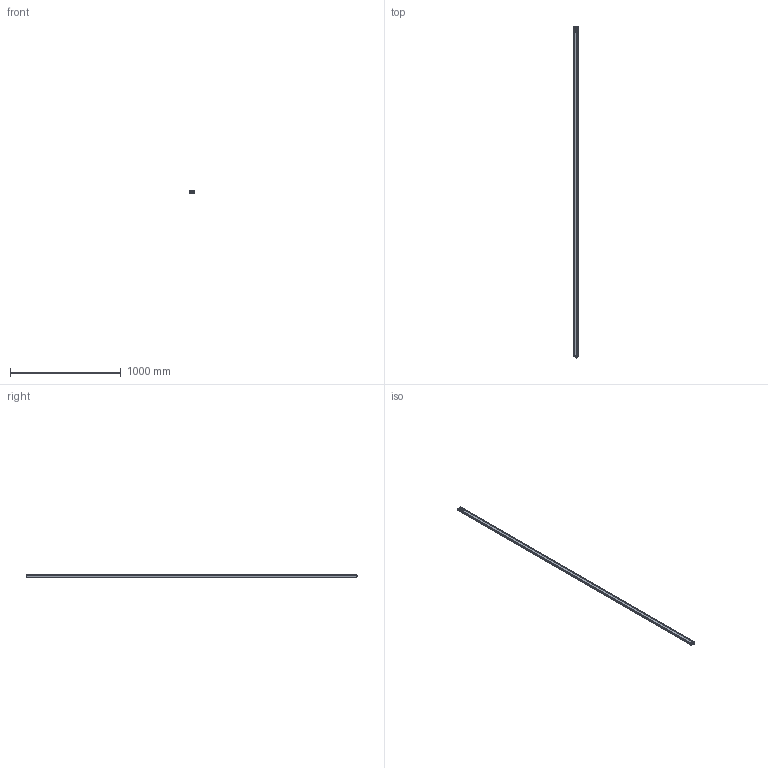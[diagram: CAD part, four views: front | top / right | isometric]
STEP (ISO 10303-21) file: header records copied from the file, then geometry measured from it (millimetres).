
FILE_DESCRIPTION(/* description */ (''),/* implementation_level */ '2;1');
FILE_NAME(/* name */ 'C:\Users\andre\SynologyDrive\Optoscan\Libreria Componenti\00 - Barriere\Barriera sorgente\Argo_2960_RX.stp',/* time_stamp */ '2021-04-23T12:51:15+02:00',/* author */ ('andre'),/* organization */ (''),/* preprocessor_version */ 'ST-DEVELOPER v18',/* originating_system */ 'Autodesk Inventor 2020',/* authorisation */ '');
FILE_SCHEMA (('AUTOMOTIVE_DESIGN { 1 0 10303 214 3 1 1 }'));
Length unit declared in the file: millimetre
Products named in the file (1): Argo_2960_RX
Bounding box: 40.5 x 2993.3 x 20.75 mm (x, y, z)
Volume: 587102.3 mm3; surface area: 782091 mm2
Topology: 1 solids, 1 shells, 676 faces, 1854 edges, 1185 vertices
Faces by surface type: plane 315, cylinder 191, bspline 94, torus 62, cone 8, sphere 6
Full cylindrical faces by diameter (mm): 1 x4, 2.5 x4, 3 x4, 3.5 x4, 5.5 x4, 8 x1, 10.5 x2, 11.75 x9, 15.7 x1, 17.5 x1
Entity records: 27592 total; most frequent: CARTESIAN_POINT 10103, ORIENTED_EDGE 3690, DIRECTION 3271, EDGE_CURVE 1845, VERTEX_POINT 1185, AXIS2_PLACEMENT_3D 1127, LINE 1017, VECTOR 1017
